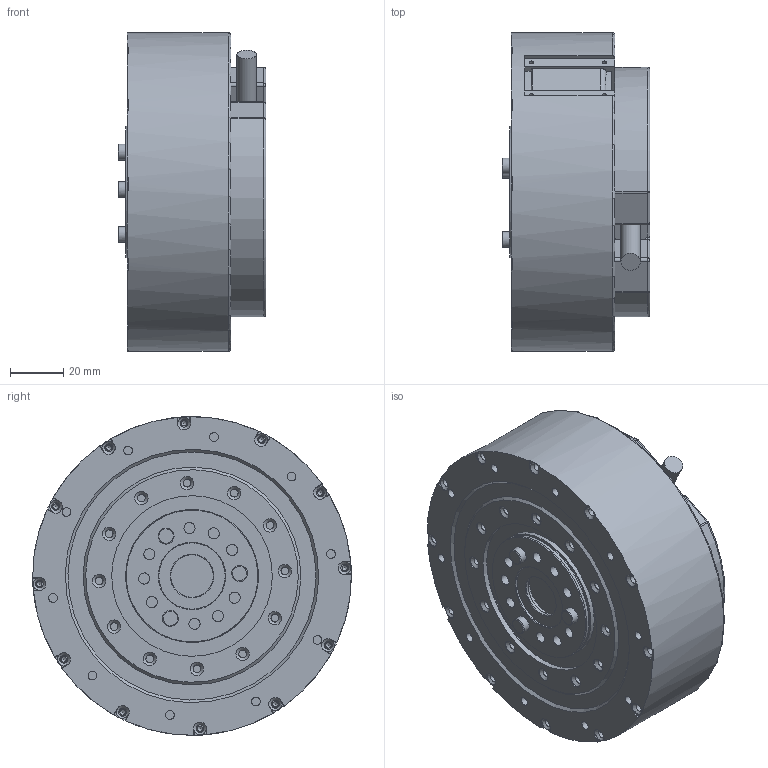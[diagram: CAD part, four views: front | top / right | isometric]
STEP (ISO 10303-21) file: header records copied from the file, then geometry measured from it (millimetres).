
FILE_DESCRIPTION(/* description */ ('STEP AP242 Edition 2','CAx-IF Rec.Pracs.---Representation and Presentation of Product Manufacturing Information (PMI)---4.0---2014-10-13','CAx-IF Rec.Pracs.---3D Tessellated Geometry---0.4---2014-09-14','2;1','CAx-IF Rec.Pracs.---User Defined Attributes---1.5---2016-08-15'),/* implementation_level */ '2;1');
FILE_NAME(/* name */ 'Assy_ForMFG - L_Knee_Pitch_RS04',/* time_stamp */ '2026-05-15T19:56:52Z',/* author */ (''),/* organization */ (''),/* preprocessor_version */ 'ST-DEVELOPER v20',/* originating_system */ 'ONSHAPE BY PTC INC, 1.215',/* authorisation */ ' ');
FILE_SCHEMA (('AP242_MANAGED_MODEL_BASED_3D_ENGINEERING_MIM_LF { 1 0 10303 442 3 1 4 }'));
Length unit declared in the file: metre
Products named in the file (1): L_Knee_Pitch_RS04
Bounding box: 55.7 x 119.99 x 119.99 mm (x, y, z)
Volume: 515017.8 mm3; surface area: 50599.8 mm2
Topology: 1 solids, 4 shells, 441 faces, 1104 edges, 720 vertices
Faces by surface type: plane 208, cylinder 174, cone 42, torus 11, sphere 6
Full cylindrical faces by diameter (mm): 1.6 x4, 2.05 x12, 2.9 x24, 3.3 x20, 4 x4, 4.2 x9, 5 x12, 6 x3, 7.3 x1, 16 x1, 19 x1, 25 x1, 48.52 x1, 50 x2, 60.5 x1, 65 x1, 110.4 x1, 120 x1
Entity records: 11662 total; most frequent: DIRECTION 2153, CARTESIAN_POINT 1988, ORIENTED_EDGE 1694, AXIS2_PLACEMENT_3D 879, EDGE_CURVE 847, FACE_BOUND 660, EDGE_LOOP 648, VERTEX_POINT 625
